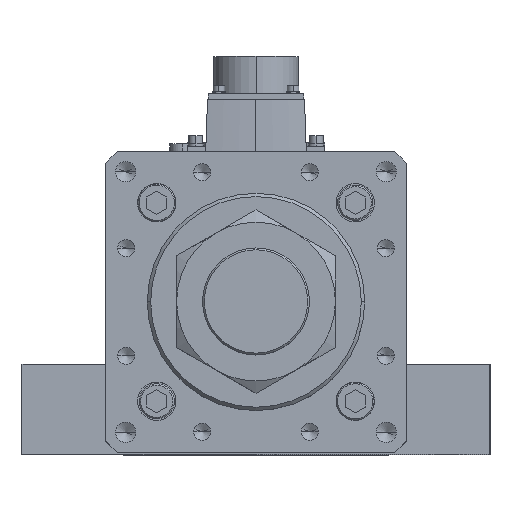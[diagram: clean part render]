
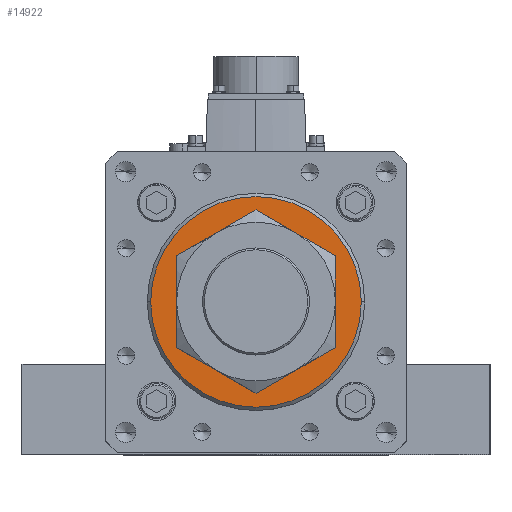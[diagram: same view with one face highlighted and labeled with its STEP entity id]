
A CAD part, top view. The second image highlights one B-rep face of the part: STEP entity #14922.
In plain terms, the highlighted planar face has unit normal (0, 0, 1).
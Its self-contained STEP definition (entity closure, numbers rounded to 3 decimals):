
#1411 = DIRECTION ( 'NONE',  ( 0., 0., 1. ) ) ;
#2170 = CIRCLE ( 'NONE', #7499, 40.5 ) ;
#2389 = EDGE_CURVE ( 'NONE', #43689, #33870, #18124, .T. ) ;
#2504 = VERTEX_POINT ( 'NONE', #46542 ) ;
#2934 = EDGE_CURVE ( 'NONE', #16339, #2504, #2170, .T. ) ;
#6290 = CARTESIAN_POINT ( 'NONE',  ( 63., 0., 662. ) ) ;
#6499 = CARTESIAN_POINT ( 'NONE',  ( 0., 0., 662. ) ) ;
#6653 = CIRCLE ( 'NONE', #21185, 40.5 ) ;
#7499 = AXIS2_PLACEMENT_3D ( 'NONE', #11352, #23954, #28769 ) ;
#9504 = CARTESIAN_POINT ( 'NONE',  ( 0., 0., 662. ) ) ;
#10666 = ORIENTED_EDGE ( 'NONE', *, *, #2389, .T. ) ;
#11352 = CARTESIAN_POINT ( 'NONE',  ( 0., 0., 662. ) ) ;
#11422 = FACE_OUTER_BOUND ( 'NONE', #15747, .T. ) ;
#14922 = ADVANCED_FACE ( 'NONE', ( #47473, #11422 ), #30993, .T. ) ;
#15208 = CARTESIAN_POINT ( 'NONE',  ( 0., 0., 662. ) ) ;
#15747 = EDGE_LOOP ( 'NONE', ( #10666, #39264 ) ) ;
#16339 = VERTEX_POINT ( 'NONE', #30732 ) ;
#16896 = DIRECTION ( 'NONE',  ( 1., 0., 0. ) ) ;
#17271 = CARTESIAN_POINT ( 'NONE',  ( 0., 0., 662. ) ) ;
#17481 = ORIENTED_EDGE ( 'NONE', *, *, #2934, .T. ) ;
#17595 = EDGE_CURVE ( 'NONE', #2504, #16339, #6653, .T. ) ;
#18124 = CIRCLE ( 'NONE', #53789, 63. ) ;
#18587 = DIRECTION ( 'NONE',  ( 1., 0., 0. ) ) ;
#19417 = CIRCLE ( 'NONE', #24383, 63. ) ;
#21185 = AXIS2_PLACEMENT_3D ( 'NONE', #15208, #42175, #23751 ) ;
#23751 = DIRECTION ( 'NONE',  ( 1., 0., 0. ) ) ;
#23954 = DIRECTION ( 'NONE',  ( 0., 0., -1. ) ) ;
#24383 = AXIS2_PLACEMENT_3D ( 'NONE', #9504, #1411, #18587 ) ;
#28769 = DIRECTION ( 'NONE',  ( 1., 0., 0. ) ) ;
#30081 = ORIENTED_EDGE ( 'NONE', *, *, #17595, .T. ) ;
#30732 = CARTESIAN_POINT ( 'NONE',  ( 40.5, 0., 662. ) ) ;
#30789 = CARTESIAN_POINT ( 'NONE',  ( -63., 0., 662. ) ) ;
#30993 = PLANE ( 'NONE',  #32549 ) ;
#32549 = AXIS2_PLACEMENT_3D ( 'NONE', #17271, #43426, #16896 ) ;
#33774 = DIRECTION ( 'NONE',  ( 1., 0., 0. ) ) ;
#33870 = VERTEX_POINT ( 'NONE', #6290 ) ;
#37486 = DIRECTION ( 'NONE',  ( 0., 0., 1. ) ) ;
#39264 = ORIENTED_EDGE ( 'NONE', *, *, #56433, .T. ) ;
#42175 = DIRECTION ( 'NONE',  ( 0., 0., -1. ) ) ;
#43426 = DIRECTION ( 'NONE',  ( 0., 0., 1. ) ) ;
#43689 = VERTEX_POINT ( 'NONE', #30789 ) ;
#46542 = CARTESIAN_POINT ( 'NONE',  ( -40.5, 0., 662. ) ) ;
#47473 = FACE_BOUND ( 'NONE', #48000, .T. ) ;
#48000 = EDGE_LOOP ( 'NONE', ( #17481, #30081 ) ) ;
#53789 = AXIS2_PLACEMENT_3D ( 'NONE', #6499, #37486, #33774 ) ;
#56433 = EDGE_CURVE ( 'NONE', #33870, #43689, #19417, .T. ) ;
